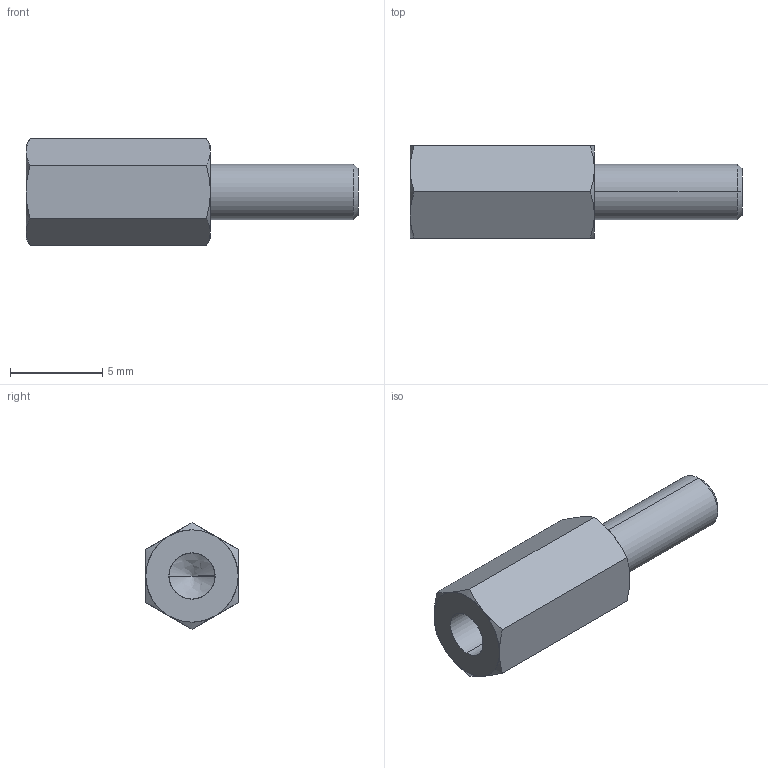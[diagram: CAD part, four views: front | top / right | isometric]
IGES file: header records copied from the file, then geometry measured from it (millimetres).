
Start section: SolidWorks IGES file using analytic representation for surfaces
Global section: file name: C:\Users\render1\Desktop\P0185_IGES\P0185.03-10.igs; native system: SolidWorks 2009; preprocessor: SolidWorks 2009; author: render1; date: 130627.111703; units: millimetre
Bounding box: 18 x 5 x 5.77 mm (x, y, z)
Surface area: 328.4 mm2 (no closed solid volume)
Topology: 0 solids, 0 shells, 29 faces, 324 edges, 322 vertices
Faces by surface type: revolution 20, bspline 9
